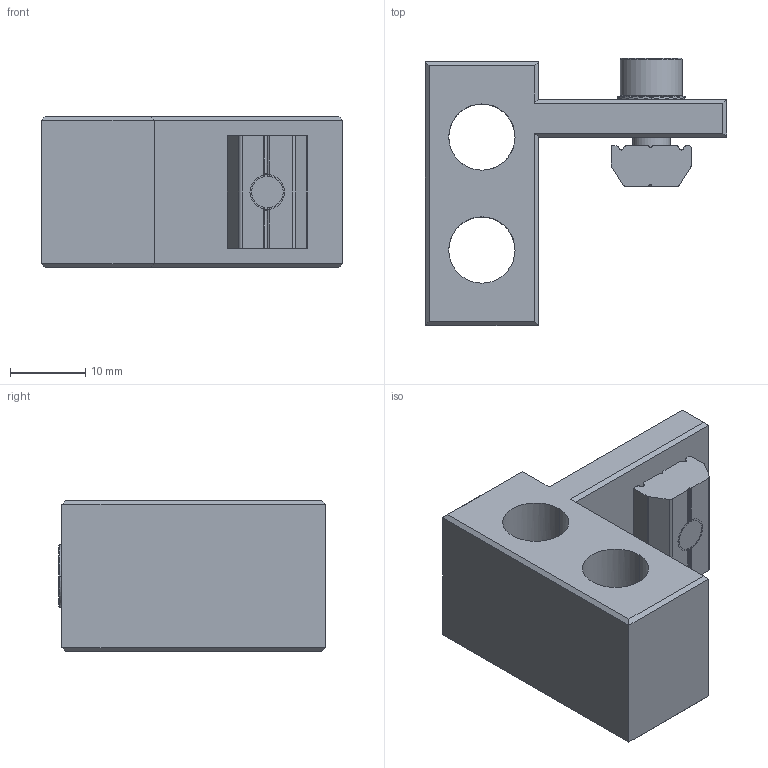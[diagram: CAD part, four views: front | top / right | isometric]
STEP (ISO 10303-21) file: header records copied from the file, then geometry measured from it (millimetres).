
FILE_DESCRIPTION (( 'STEP AP214' ), '1' );
FILE_NAME ('SMB1-5G18T.STEP', '2023-01-06T08:42:08', ( 'Windows User' ), ( 'P R C' ), 'SwSTEP 2.0', 'SolidWorks 2018', '' );
FILE_SCHEMA (( 'AUTOMOTIVE_DESIGN' ));
Length unit declared in the file: millimetre
Products named in the file (5): PTN-M5; PTS-M5; SMB1-5G18; SMB1-5G18T; PTC-M5L12
Assembly tree (4 placements, depth 2):
  SMB1-5G18T
    SMB1-5G18
    PTC-M5L12
    PTN-M5
    PTS-M5
Bounding box: 40 x 35.45 x 20 mm (x, y, z)
Volume: 10735.6 mm3; surface area: 6480.9 mm2
Topology: 4 solids, 4 shells, 272 faces, 777 edges, 508 vertices
Faces by surface type: plane 220, cylinder 46, cone 6
Entity records: 9268 total; most frequent: CARTESIAN_POINT 1680, ORIENTED_EDGE 1554, DIRECTION 1533, EDGE_CURVE 777, AXIS2_PLACEMENT_3D 513, VERTEX_POINT 508, LINE 507, VECTOR 507
